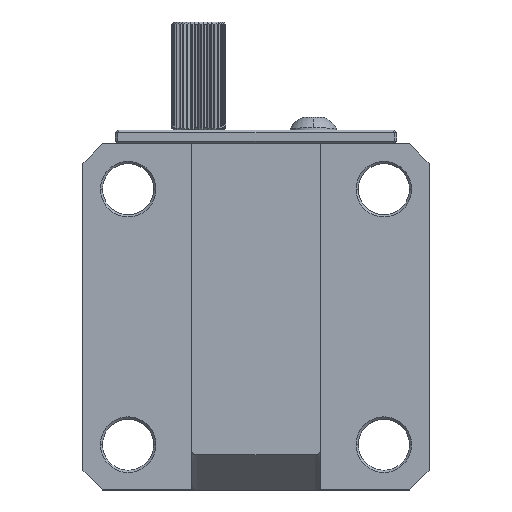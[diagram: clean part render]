
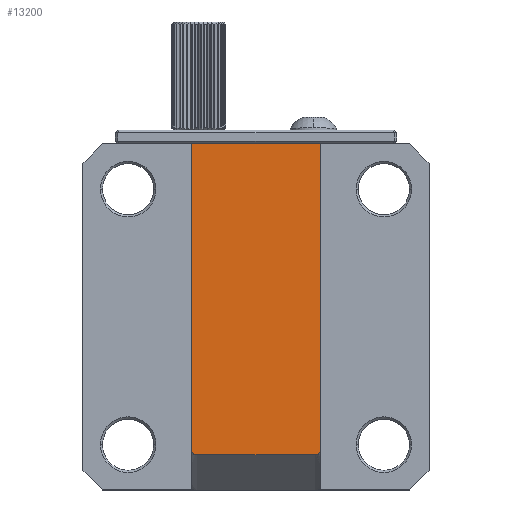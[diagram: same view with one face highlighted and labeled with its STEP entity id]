
A CAD part, top view. The second image highlights one B-rep face of the part: STEP entity #13200.
In plain terms, the highlighted planar face has unit normal (0, 0, 1).
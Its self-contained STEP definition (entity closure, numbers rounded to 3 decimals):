
#8693=DIRECTION('',(0.,1.,0.));
#8694=VECTOR('',#8693,35.865);
#8695=CARTESIAN_POINT('',(-7.62,-15.545,9.398));
#8696=LINE('',#8695,#8694);
#8709=DIRECTION('',(1.,0.,0.));
#8710=VECTOR('',#8709,15.24);
#8711=CARTESIAN_POINT('',(-7.62,20.32,9.398));
#8712=LINE('',#8711,#8710);
#8758=DIRECTION('',(-1.,0.,0.));
#8759=VECTOR('',#8758,13.919);
#8760=CARTESIAN_POINT('',(6.96,-16.205,9.398));
#8761=LINE('',#8760,#8759);
#8762=CARTESIAN_POINT('',(6.96,-15.545,9.398));
#8763=DIRECTION('',(0.,0.,1.));
#8764=DIRECTION('',(0.,-1.,0.));
#8765=AXIS2_PLACEMENT_3D('',#8762,#8763,#8764);
#8767=CARTESIAN_POINT('',(-6.96,-15.545,9.398));
#8768=DIRECTION('',(0.,0.,1.));
#8769=DIRECTION('',(-1.,0.,0.));
#8770=AXIS2_PLACEMENT_3D('',#8767,#8768,#8769);
#8772=DIRECTION('',(0.,-1.,0.));
#8773=VECTOR('',#8772,35.865);
#8774=CARTESIAN_POINT('',(7.62,20.32,9.398));
#8775=LINE('',#8774,#8773);
#12835=CARTESIAN_POINT('',(6.96,-16.205,9.398));
#12836=CARTESIAN_POINT('',(7.62,-15.545,9.398));
#12837=VERTEX_POINT('',#12835);
#12838=VERTEX_POINT('',#12836);
#12839=CARTESIAN_POINT('',(-7.62,-15.545,9.398));
#12841=VERTEX_POINT('',#12839);
#12845=CARTESIAN_POINT('',(-7.62,20.32,9.398));
#12846=VERTEX_POINT('',#12845);
#12851=CARTESIAN_POINT('',(-6.96,-16.205,9.398));
#12852=VERTEX_POINT('',#12851);
#12859=CARTESIAN_POINT('',(7.62,20.32,9.398));
#12860=VERTEX_POINT('',#12859);
#13186=CARTESIAN_POINT('',(6.96,-15.545,9.398));
#13187=DIRECTION('',(0.,0.,1.));
#13188=DIRECTION('',(1.,0.,0.));
#13189=AXIS2_PLACEMENT_3D('',#13186,#13187,#13188);
#13190=PLANE('',#13189);
#13191=ORIENTED_EDGE('',*,*,#13126,.T.);
#13193=ORIENTED_EDGE('',*,*,#13192,.T.);
#13194=ORIENTED_EDGE('',*,*,#13165,.F.);
#13195=ORIENTED_EDGE('',*,*,#13180,.T.);
#13196=ORIENTED_EDGE('',*,*,#13079,.F.);
#13197=ORIENTED_EDGE('',*,*,#13108,.T.);
#13198=EDGE_LOOP('',(#13191,#13193,#13194,#13195,#13196,#13197));
#13199=FACE_OUTER_BOUND('',#13198,.F.);
#13200=ADVANCED_FACE('',(#13199),#13190,.T.);
#8766=CIRCLE('',#8765,0.66);
#8771=CIRCLE('',#8770,0.66);
#13079=EDGE_CURVE('',#12841,#12852,#8771,.T.);
#13108=EDGE_CURVE('',#12841,#12846,#8696,.T.);
#13126=EDGE_CURVE('',#12846,#12860,#8712,.T.);
#13165=EDGE_CURVE('',#12837,#12838,#8766,.T.);
#13180=EDGE_CURVE('',#12837,#12852,#8761,.T.);
#13192=EDGE_CURVE('',#12860,#12838,#8775,.T.);
